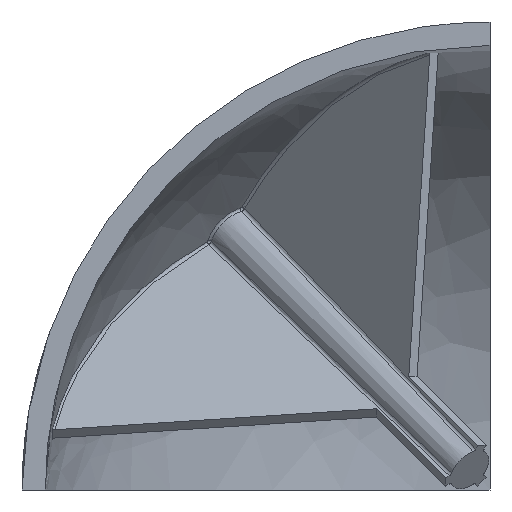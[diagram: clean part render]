
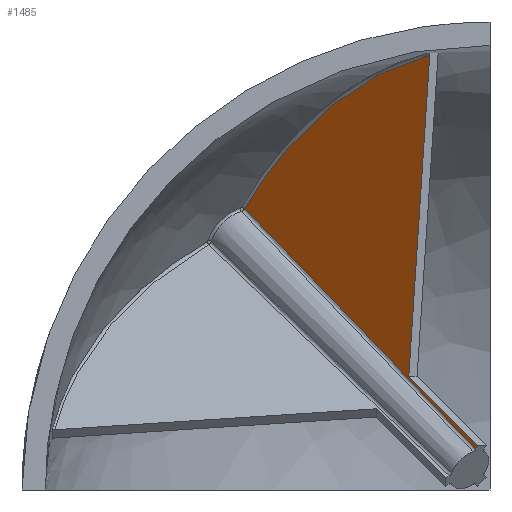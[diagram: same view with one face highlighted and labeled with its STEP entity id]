
A CAD part, front view. The second image highlights one B-rep face of the part: STEP entity #1485.
In plain terms, the highlighted planar face has unit normal (-0.707, -0.707, 0).
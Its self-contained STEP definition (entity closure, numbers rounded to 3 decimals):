
#33 = EDGE_CURVE ( 'NONE', #2186, #1158, #1432, .T. ) ;
#39 = CARTESIAN_POINT ( 'NONE',  ( -18.84, 18.133, 21.824 ) ) ;
#50 = CARTESIAN_POINT ( 'NONE',  ( -3.409, 2.702, 5.785 ) ) ;
#56 = EDGE_LOOP ( 'NONE', ( #97, #1591, #1505, #1601, #1041 ) ) ;
#68 = CARTESIAN_POINT ( 'NONE',  ( -5.153, 4.446, 37.179 ) ) ;
#97 = ORIENTED_EDGE ( 'NONE', *, *, #1129, .F. ) ;
#120 = LINE ( 'NONE', #880, #1686 ) ;
#130 = EDGE_CURVE ( 'NONE', #1978, #1807, #2064, .T. ) ;
#144 = FACE_OUTER_BOUND ( 'NONE', #56, .T. ) ;
#178 = DIRECTION ( 'NONE',  ( 0.707, 0.707, 0. ) ) ;
#186 = CARTESIAN_POINT ( 'NONE',  ( -5.153, 4.446, 37.179 ) ) ;
#189 = DIRECTION ( 'NONE',  ( 0.577, -0.577, -0.577 ) ) ;
#230 = CARTESIAN_POINT ( 'NONE',  ( -1.205, 0.498, 3.493 ) ) ;
#332 = CARTESIAN_POINT ( 'NONE',  ( -6.942, 6.235, 9.712 ) ) ;
#392 = CARTESIAN_POINT ( 'NONE',  ( -13.352, 12.645, 16.122 ) ) ;
#457 = B_SPLINE_CURVE_WITH_KNOTS ( 'NONE', 3,
 ( #68, #1365, #2118, #2278, #2333, #1570, #998, #1741, #1768, #986, #824, #1180, #1933, #2131, #1945, #1755 ),
 .UNSPECIFIED., .F., .F.,
 ( 4, 2, 2, 2, 2, 2, 2, 4 ),
 ( 0., 0.003, 0.007, 0.013, 0.015, 0.017, 0.02, 0.027 ),
 .UNSPECIFIED. ) ;
#526 = CARTESIAN_POINT ( 'NONE',  ( -24.466, 23.759, 21.119 ) ) ;
#548 = PLANE ( 'NONE',  #1534 ) ;
#690 = CARTESIAN_POINT ( 'NONE',  ( -20.974, 20.266, 24.041 ) ) ;
#735 = VECTOR ( 'NONE', #189, 1000. ) ;
#757 = CARTESIAN_POINT ( 'NONE',  ( -1.205, 0.498, 3.493 ) ) ;
#824 = CARTESIAN_POINT ( 'NONE',  ( -15.541, 14.834, 31.102 ) ) ;
#880 = CARTESIAN_POINT ( 'NONE',  ( -5.153, 4.446, 37.179 ) ) ;
#961 = DIRECTION ( 'NONE',  ( -0.408, 0.408, -0.816 ) ) ;
#986 = CARTESIAN_POINT ( 'NONE',  ( -15.218, 14.51, 31.413 ) ) ;
#998 = CARTESIAN_POINT ( 'NONE',  ( -12.53, 11.823, 33.716 ) ) ;
#1041 = ORIENTED_EDGE ( 'NONE', *, *, #130, .F. ) ;
#1129 = EDGE_CURVE ( 'NONE', #1356, #1978, #120, .T. ) ;
#1151 = CARTESIAN_POINT ( 'NONE',  ( -8.931, 8.224, 11.527 ) ) ;
#1158 = VERTEX_POINT ( 'NONE', #757 ) ;
#1180 = CARTESIAN_POINT ( 'NONE',  ( -16.493, 15.786, 30.143 ) ) ;
#1203 = CARTESIAN_POINT ( 'NONE',  ( -20.974, 20.266, 24.041 ) ) ;
#1324 = LINE ( 'NONE', #2066, #1891 ) ;
#1356 = VERTEX_POINT ( 'NONE', #186 ) ;
#1362 = CARTESIAN_POINT ( 'NONE',  ( -2.307, 1.6, 4.639 ) ) ;
#1365 = CARTESIAN_POINT ( 'NONE',  ( -5.928, 5.22, 36.979 ) ) ;
#1379 = CARTESIAN_POINT ( 'NONE',  ( -6.942, 6.235, 9.712 ) ) ;
#1432 = B_SPLINE_CURVE_WITH_KNOTS ( 'NONE', 3,
 ( #1203, #1566, #39, #1556, #392, #1151, #1916, #50, #1362, #230 ),
 .UNSPECIFIED., .F., .F.,
 ( 4, 3, 3, 4 ),
 ( 0., 0.006, 0.029, 0.035 ),
 .UNSPECIFIED. ) ;
#1485 = ADVANCED_FACE ( 'NONE', ( #144 ), #548, .F. ) ;
#1505 = ORIENTED_EDGE ( 'NONE', *, *, #33, .T. ) ;
#1522 = DIRECTION ( 'NONE',  ( -0.707, 0.707, 0. ) ) ;
#1534 = AXIS2_PLACEMENT_3D ( 'NONE', #526, #178, #1522 ) ;
#1556 = CARTESIAN_POINT ( 'NONE',  ( -17.774, 17.066, 20.716 ) ) ;
#1566 = CARTESIAN_POINT ( 'NONE',  ( -19.907, 19.2, 22.933 ) ) ;
#1570 = CARTESIAN_POINT ( 'NONE',  ( -11.124, 10.417, 34.658 ) ) ;
#1587 = EDGE_CURVE ( 'NONE', #1356, #2186, #457, .T. ) ;
#1591 = ORIENTED_EDGE ( 'NONE', *, *, #1587, .T. ) ;
#1601 = ORIENTED_EDGE ( 'NONE', *, *, #2103, .F. ) ;
#1686 = VECTOR ( 'NONE', #2023, 1000. ) ;
#1741 = CARTESIAN_POINT ( 'NONE',  ( -14.225, 13.517, 32.309 ) ) ;
#1755 = CARTESIAN_POINT ( 'NONE',  ( -20.974, 20.266, 24.041 ) ) ;
#1768 = CARTESIAN_POINT ( 'NONE',  ( -14.56, 13.853, 32.016 ) ) ;
#1807 = VERTEX_POINT ( 'NONE', #2236 ) ;
#1891 = VECTOR ( 'NONE', #961, 1000. ) ;
#1916 = CARTESIAN_POINT ( 'NONE',  ( -4.511, 3.804, 6.931 ) ) ;
#1933 = CARTESIAN_POINT ( 'NONE',  ( -17.106, 16.399, 29.466 ) ) ;
#1945 = CARTESIAN_POINT ( 'NONE',  ( -19.972, 19.265, 25.76 ) ) ;
#1978 = VERTEX_POINT ( 'NONE', #1379 ) ;
#2023 = DIRECTION ( 'NONE',  ( -0.065, 0.065, -0.996 ) ) ;
#2064 = LINE ( 'NONE', #332, #735 ) ;
#2066 = CARTESIAN_POINT ( 'NONE',  ( -1.045, 0.337, 3.814 ) ) ;
#2103 = EDGE_CURVE ( 'NONE', #1807, #1158, #1324, .T. ) ;
#2118 = CARTESIAN_POINT ( 'NONE',  ( -6.695, 5.988, 36.731 ) ) ;
#2131 = CARTESIAN_POINT ( 'NONE',  ( -18.878, 18.171, 27.329 ) ) ;
#2186 = VERTEX_POINT ( 'NONE', #690 ) ;
#2236 = CARTESIAN_POINT ( 'NONE',  ( -1.045, 0.337, 3.814 ) ) ;
#2278 = CARTESIAN_POINT ( 'NONE',  ( -8.2, 7.493, 36.144 ) ) ;
#2333 = CARTESIAN_POINT ( 'NONE',  ( -8.941, 8.234, 35.806 ) ) ;
